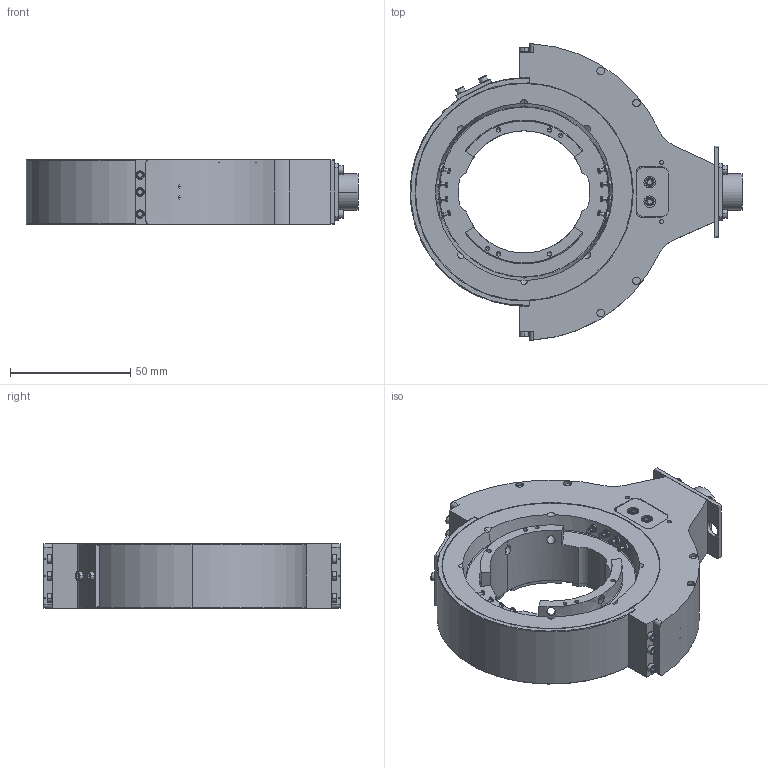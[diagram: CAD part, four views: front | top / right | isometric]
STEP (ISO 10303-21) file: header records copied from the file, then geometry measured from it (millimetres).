
FILE_DESCRIPTION (( 'STEP AP203' ), '1' );
FILE_NAME ('C447027C.STEP', '2015-06-02T14:29:19', ( '' ), ( '' ), 'SwSTEP 2.0', 'SolidWorks 2014', '' );
FILE_SCHEMA (( 'CONFIG_CONTROL_DESIGN' ));
Length unit declared in the file: inch
Products named in the file (1): C447027C
Bounding box: 137.87 x 123.11 x 26.92 mm (x, y, z)
Volume: 208366.6 mm3; surface area: 41736.2 mm2
Topology: 8 solids, 39 shells, 1635 faces, 4133 edges, 2621 vertices
Faces by surface type: cylinder 897, plane 421, cone 266, bspline 51
Entity records: 77745 total; most frequent: CARTESIAN_POINT 41711, ORIENTED_EDGE 8194, DIRECTION 6620, EDGE_CURVE 4097, VERTEX_POINT 2621, AXIS2_PLACEMENT_3D 2518, EDGE_LOOP 1802, ADVANCED_FACE 1635
